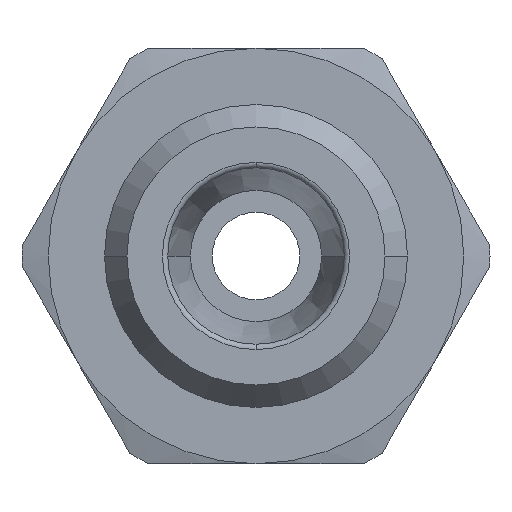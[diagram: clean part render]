
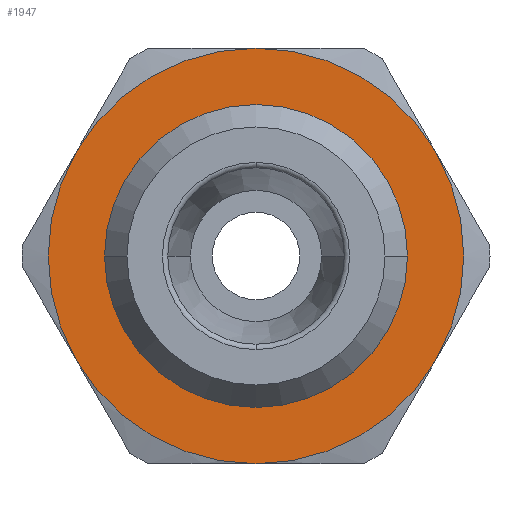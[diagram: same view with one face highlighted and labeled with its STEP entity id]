
A CAD part, left-side view. The second image highlights one B-rep face of the part: STEP entity #1947.
In plain terms, the highlighted planar face has unit normal (-1, 0, 0) as drawn and (0, 0, 1) by its records, which use the part's own axes.
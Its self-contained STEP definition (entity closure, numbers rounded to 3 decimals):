
#857=CARTESIAN_POINT('',(-6.8,0.,3.0));
#858=VERTEX_POINT('',#857);
#884=CARTESIAN_POINT('',(6.8,0.,3.0));
#885=VERTEX_POINT('',#884);
#893=CARTESIAN_POINT('',(0.,0.,3.0));
#894=DIRECTION('',(0.0,0.0,1.0));
#895=DIRECTION('',(-1.0,0.0,0.0));
#896=AXIS2_PLACEMENT_3D('',#893,#894,#895);
#897=CIRCLE('',#896,6.8);
#898=EDGE_CURVE('',#885,#858,#897,.T.);
#1827=CARTESIAN_POINT('',(0.,-6.8,3.0));
#1828=VERTEX_POINT('',#1827);
#1829=CARTESIAN_POINT('',(0.,0.,3.0));
#1830=DIRECTION('',(0.0,0.0,1.0));
#1831=DIRECTION('',(-1.0,0.0,0.0));
#1832=AXIS2_PLACEMENT_3D('',#1829,#1830,#1831);
#1833=CIRCLE('',#1832,6.8);
#1834=EDGE_CURVE('',#858,#1828,#1833,.T.);
#1836=CARTESIAN_POINT('',(0.,0.,3.0));
#1837=DIRECTION('',(0.0,0.0,1.0));
#1838=DIRECTION('',(-1.0,0.0,0.0));
#1839=AXIS2_PLACEMENT_3D('',#1836,#1837,#1838);
#1840=CIRCLE('',#1839,6.8);
#1841=EDGE_CURVE('',#1828,#885,#1840,.T.);
#1881=CARTESIAN_POINT('',(0.,0.,3.0));
#1882=DIRECTION('',(0.0,0.0,1.0));
#1883=DIRECTION('',(1.0,0.0,0.0));
#1884=AXIS2_PLACEMENT_3D('',#1881,#1882,#1883);
#1885=PLANE('',#1884);
#1886=CARTESIAN_POINT('',(4.75,-8.227,3.));
#1887=VERTEX_POINT('',#1886);
#1888=CARTESIAN_POINT('',(9.5,0.0,3.));
#1889=VERTEX_POINT('',#1888);
#1890=CARTESIAN_POINT('',(0.,0.0,3.0));
#1891=DIRECTION('',(0.0,0.0,1.0));
#1892=DIRECTION('',(1.0,0.0,0.0));
#1893=AXIS2_PLACEMENT_3D('',#1890,#1891,#1892);
#1894=CIRCLE('',#1893,9.5);
#1895=EDGE_CURVE('',#1887,#1889,#1894,.T.);
#1896=ORIENTED_EDGE('',*,*,#1895,.T.);
#1897=CARTESIAN_POINT('',(4.75,8.227,3.));
#1898=VERTEX_POINT('',#1897);
#1899=CARTESIAN_POINT('',(0.,0.0,3.0));
#1900=DIRECTION('',(0.0,0.0,1.0));
#1901=DIRECTION('',(1.0,0.0,0.0));
#1902=AXIS2_PLACEMENT_3D('',#1899,#1900,#1901);
#1903=CIRCLE('',#1902,9.5);
#1904=EDGE_CURVE('',#1889,#1898,#1903,.T.);
#1905=ORIENTED_EDGE('',*,*,#1904,.T.);
#1906=CARTESIAN_POINT('',(-4.75,8.227,3.));
#1907=VERTEX_POINT('',#1906);
#1908=CARTESIAN_POINT('',(0.,0.0,3.0));
#1909=DIRECTION('',(0.0,0.0,1.0));
#1910=DIRECTION('',(1.0,0.0,0.0));
#1911=AXIS2_PLACEMENT_3D('',#1908,#1909,#1910);
#1912=CIRCLE('',#1911,9.5);
#1913=EDGE_CURVE('',#1898,#1907,#1912,.T.);
#1914=ORIENTED_EDGE('',*,*,#1913,.T.);
#1915=CARTESIAN_POINT('',(-9.5,0.,3.));
#1916=VERTEX_POINT('',#1915);
#1917=CARTESIAN_POINT('',(0.,0.0,3.0));
#1918=DIRECTION('',(0.0,0.0,1.0));
#1919=DIRECTION('',(1.0,0.0,0.0));
#1920=AXIS2_PLACEMENT_3D('',#1917,#1918,#1919);
#1921=CIRCLE('',#1920,9.5);
#1922=EDGE_CURVE('',#1907,#1916,#1921,.T.);
#1923=ORIENTED_EDGE('',*,*,#1922,.T.);
#1924=CARTESIAN_POINT('',(-4.75,-8.227,3.));
#1925=VERTEX_POINT('',#1924);
#1926=CARTESIAN_POINT('',(0.,0.0,3.0));
#1927=DIRECTION('',(0.0,0.0,1.0));
#1928=DIRECTION('',(1.0,0.0,0.0));
#1929=AXIS2_PLACEMENT_3D('',#1926,#1927,#1928);
#1930=CIRCLE('',#1929,9.5);
#1931=EDGE_CURVE('',#1916,#1925,#1930,.T.);
#1932=ORIENTED_EDGE('',*,*,#1931,.T.);
#1933=CARTESIAN_POINT('',(0.,0.0,3.0));
#1934=DIRECTION('',(0.0,0.0,1.0));
#1935=DIRECTION('',(1.0,0.0,0.0));
#1936=AXIS2_PLACEMENT_3D('',#1933,#1934,#1935);
#1937=CIRCLE('',#1936,9.5);
#1938=EDGE_CURVE('',#1925,#1887,#1937,.T.);
#1939=ORIENTED_EDGE('',*,*,#1938,.T.);
#1940=EDGE_LOOP('',(#1896,#1905,#1914,#1923,#1932,#1939));
#1941=FACE_OUTER_BOUND('',#1940,.T.);
#1942=ORIENTED_EDGE('',*,*,#1841,.F.);
#1943=ORIENTED_EDGE('',*,*,#1834,.F.);
#1944=ORIENTED_EDGE('',*,*,#898,.F.);
#1945=EDGE_LOOP('',(#1942,#1943,#1944));
#1946=FACE_BOUND('',#1945,.T.);
#1947=ADVANCED_FACE('',(#1941,#1946),#1885,.T.);
